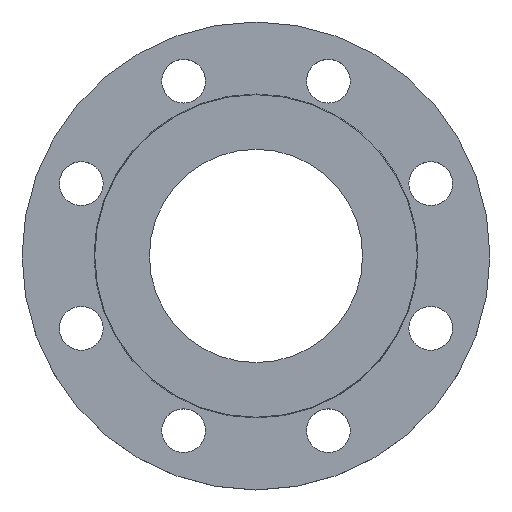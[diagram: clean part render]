
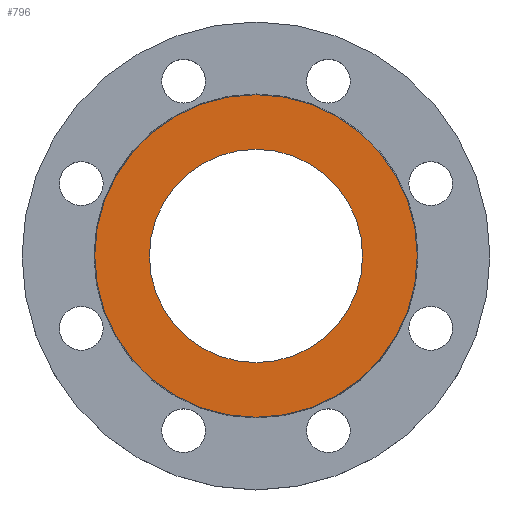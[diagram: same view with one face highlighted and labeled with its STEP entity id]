
A CAD part, top view. The second image highlights one B-rep face of the part: STEP entity #796.
In plain terms, the highlighted planar face has unit normal (0, 0, 1).
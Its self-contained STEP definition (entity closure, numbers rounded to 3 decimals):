
#6 = CARTESIAN_POINT ( 'NONE',  ( -53.55, 0., 0. ) ) ;
#23 = DIRECTION ( 'NONE',  ( 0., 0., 1. ) ) ;
#50 = DIRECTION ( 'NONE',  ( 0., 0., -1. ) ) ;
#51 = DIRECTION ( 'NONE',  ( -1., 0., 0. ) ) ;
#55 = CARTESIAN_POINT ( 'NONE',  ( 0., 0., 0. ) ) ;
#80 = DIRECTION ( 'NONE',  ( 0., 0., -1. ) ) ;
#81 = DIRECTION ( 'NONE',  ( -1., 0., 0. ) ) ;
#87 = CARTESIAN_POINT ( 'NONE',  ( 0., 0., 0. ) ) ;
#100 = DIRECTION ( 'NONE',  ( 1., 0., 0. ) ) ;
#101 = DIRECTION ( 'NONE',  ( 0., 0., 1. ) ) ;
#102 = CARTESIAN_POINT ( 'NONE',  ( 0., 0., 0. ) ) ;
#124 = CARTESIAN_POINT ( 'NONE',  ( -81., 0., 0. ) ) ;
#169 = FACE_OUTER_BOUND ( 'NONE', #833, .T. ) ;
#306 = FACE_BOUND ( 'NONE', #895, .T. ) ;
#344 = CIRCLE ( 'NONE', #361, 53.55 ) ;
#361 = AXIS2_PLACEMENT_3D ( 'NONE', #552, #553, #554 ) ;
#365 = EDGE_CURVE ( 'NONE', #831, #619, #344, .T. ) ;
#401 = CIRCLE ( 'NONE', #425, 53.55 ) ;
#425 = AXIS2_PLACEMENT_3D ( 'NONE', #102, #101, #100 ) ;
#428 = DIRECTION ( 'NONE',  ( 1., 0., 0. ) ) ;
#461 = PLANE ( 'NONE',  #463 ) ;
#463 = AXIS2_PLACEMENT_3D ( 'NONE', #675, #23, #428 ) ;
#501 = CARTESIAN_POINT ( 'NONE',  ( 81., 0., 0. ) ) ;
#503 = CIRCLE ( 'NONE', #623, 81. ) ;
#552 = CARTESIAN_POINT ( 'NONE',  ( 0., 0., 0. ) ) ;
#553 = DIRECTION ( 'NONE',  ( 0., 0., 1. ) ) ;
#554 = DIRECTION ( 'NONE',  ( 1., 0., 0. ) ) ;
#599 = EDGE_CURVE ( 'NONE', #619, #831, #401, .T. ) ;
#614 = AXIS2_PLACEMENT_3D ( 'NONE', #87, #80, #81 ) ;
#619 = VERTEX_POINT ( 'NONE', #6 ) ;
#621 = VERTEX_POINT ( 'NONE', #124 ) ;
#623 = AXIS2_PLACEMENT_3D ( 'NONE', #55, #50, #51 ) ;
#637 = CARTESIAN_POINT ( 'NONE',  ( 53.55, 0., 0. ) ) ;
#646 = EDGE_CURVE ( 'NONE', #861, #621, #742, .T. ) ;
#675 = CARTESIAN_POINT ( 'NONE',  ( 0., 0., 0. ) ) ;
#678 = EDGE_CURVE ( 'NONE', #621, #861, #503, .T. ) ;
#742 = CIRCLE ( 'NONE', #614, 81. ) ;
#777 = ORIENTED_EDGE ( 'NONE', *, *, #365, .F. ) ;
#778 = ORIENTED_EDGE ( 'NONE', *, *, #599, .F. ) ;
#782 = ORIENTED_EDGE ( 'NONE', *, *, #678, .F. ) ;
#783 = ORIENTED_EDGE ( 'NONE', *, *, #646, .F. ) ;
#796 = ADVANCED_FACE ( 'NONE', ( #306, #169 ), #461, .T. ) ;
#831 = VERTEX_POINT ( 'NONE', #637 ) ;
#833 = EDGE_LOOP ( 'NONE', ( #782, #783 ) ) ;
#861 = VERTEX_POINT ( 'NONE', #501 ) ;
#895 = EDGE_LOOP ( 'NONE', ( #777, #778 ) ) ;
